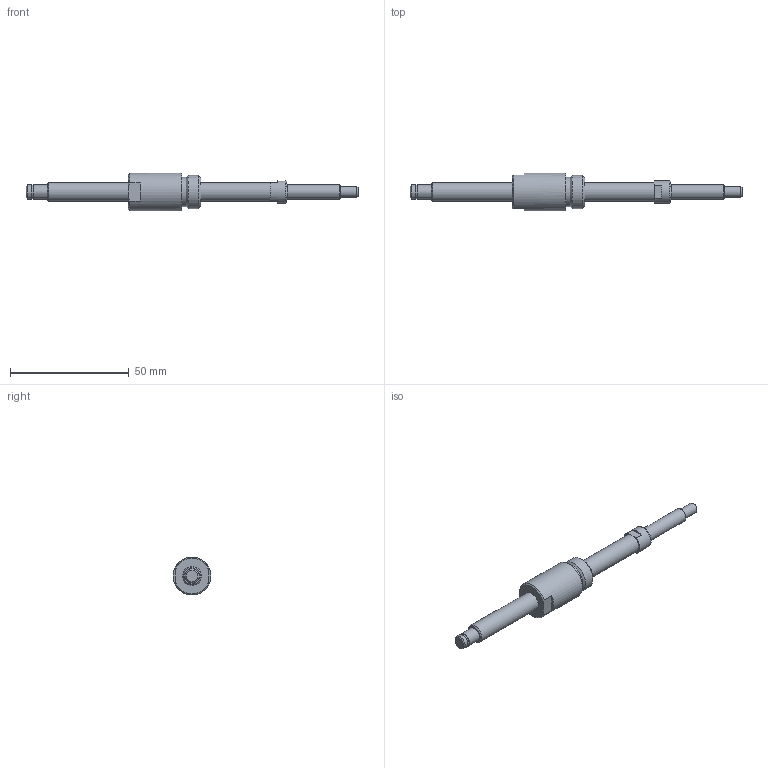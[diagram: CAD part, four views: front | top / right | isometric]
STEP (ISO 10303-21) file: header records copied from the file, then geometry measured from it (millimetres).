
FILE_DESCRIPTION(/* description */ ('STEP AP214'),/* implementation_level */ '2;1');
FILE_NAME(/* name */ 'NSG0805-090R140C5B0X(34.2)',/* time_stamp */ '2026-08-20T15:48:10+02:00',/* author */ ('License CC BY-ND 4.0'),/* organization */ ('CADENAS'),/* preprocessor_version */ 'ST-DEVELOPER v20',/* originating_system */ 'PARTsolutions',/* authorisation */ ' ');
FILE_SCHEMA (('AUTOMOTIVE_DESIGN {1 0 10303 214 3 1 1}'));
Length unit declared in the file: millimetre
Products named in the file (3): NSG0805-090R140C5B0X(34.2); NSG0805-90R140C3B_shaft; NSG0805_nut
Assembly tree (2 placements, depth 2):
  NSG0805-090R140C5B0X(34.2)
    NSG0805-90R140C3B_shaft
    NSG0805_nut
Bounding box: 140 x 16 x 16 mm (x, y, z)
Volume: 10273.6 mm3; surface area: 5925.8 mm2
Topology: 2 solids, 2 shells, 42 faces, 83 edges, 51 vertices
Faces by surface type: plane 20, cylinder 11, cone 10, torus 1
Full cylindrical faces by diameter (mm): 4.5 x1, 5.7 x1, 6 x3, 8 x2, 9.5 x1, 12.4 x1, 14 x1, 16 x1
Entity records: 1047 total; most frequent: DIRECTION 186, CARTESIAN_POINT 167, ORIENTED_EDGE 122, AXIS2_PLACEMENT_3D 84, EDGE_LOOP 70, FACE_BOUND 70, EDGE_CURVE 61, VERTEX_POINT 49
